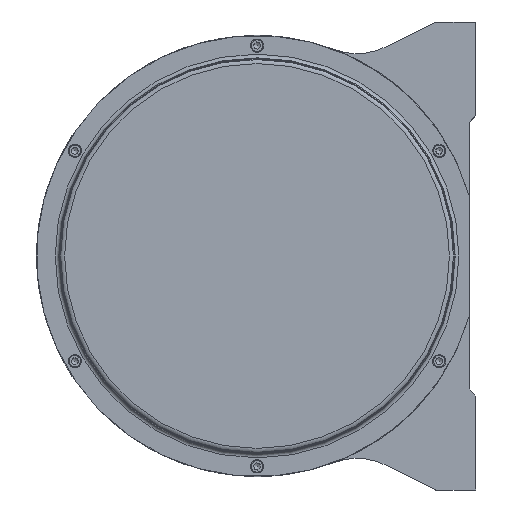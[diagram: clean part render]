
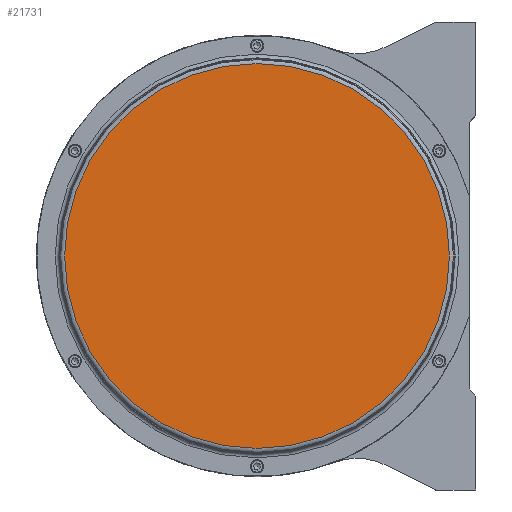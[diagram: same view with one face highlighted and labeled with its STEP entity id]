
A CAD part, left-side view. The second image highlights one B-rep face of the part: STEP entity #21731.
In plain terms, the highlighted planar face has unit normal (-1, 0, 0).
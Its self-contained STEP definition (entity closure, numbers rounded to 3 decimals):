
#1548=PLANE('',#23726);
#2536=FACE_OUTER_BOUND('',#3835,.T.);
#3835=EDGE_LOOP('',(#17369));
#7841=CIRCLE('',#23723,236.);
#9628=VERTEX_POINT('',#39954);
#12337=EDGE_CURVE('',#9628,#9628,#7841,.T.);
#17369=ORIENTED_EDGE('',*,*,#12337,.F.);
#21731=ADVANCED_FACE('',(#2536),#1548,.T.);
#23723=AXIS2_PLACEMENT_3D('',#39956,#28630,#28631);
#23726=AXIS2_PLACEMENT_3D('',#39959,#28636,#28637);
#28630=DIRECTION('center_axis',(1.,0.,0.));
#28631=DIRECTION('ref_axis',(0.,0.,
-1.));
#28636=DIRECTION('center_axis',(-1.,0.,0.));
#28637=DIRECTION('ref_axis',(0.,0.,
1.));
#39954=CARTESIAN_POINT('',(-519.643,-0.221,235.999));
#39956=CARTESIAN_POINT('Origin',(-519.643,-0.221,-0.001));
#39959=CARTESIAN_POINT('Origin',(-519.643,235.779,-0.001));
